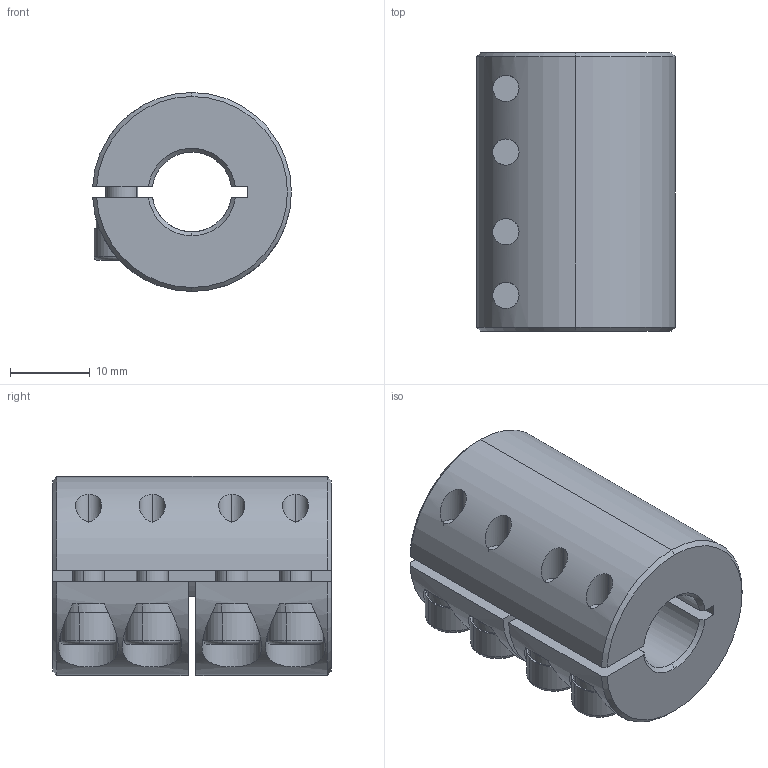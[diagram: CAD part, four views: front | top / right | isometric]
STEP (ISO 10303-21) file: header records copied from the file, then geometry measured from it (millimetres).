
FILE_DESCRIPTION (( 'STEP AP203' ), '1' );
FILE_NAME ('LL-B-D25L35-10-12.STEP', '2021-11-05T07:04:47', ( '' ), ( '' ), 'SwSTEP 2.0', 'SolidWorks 2018', '' );
FILE_SCHEMA (( 'CONFIG_CONTROL_DESIGN' ));
Length unit declared in the file: millimetre
Products named in the file (1): LL-B-D25L35-10-12
Bounding box: 24.98 x 35 x 25 mm (x, y, z)
Volume: 12882.8 mm3; surface area: 6888.3 mm2
Topology: 1 solids, 1 shells, 192 faces, 493 edges, 307 vertices
Faces by surface type: plane 92, cylinder 72, cone 20, torus 8
Entity records: 6313 total; most frequent: CARTESIAN_POINT 1497, DIRECTION 1042, ORIENTED_EDGE 970, EDGE_CURVE 485, AXIS2_PLACEMENT_3D 404, VERTEX_POINT 307, VECTOR 234, LINE 234
